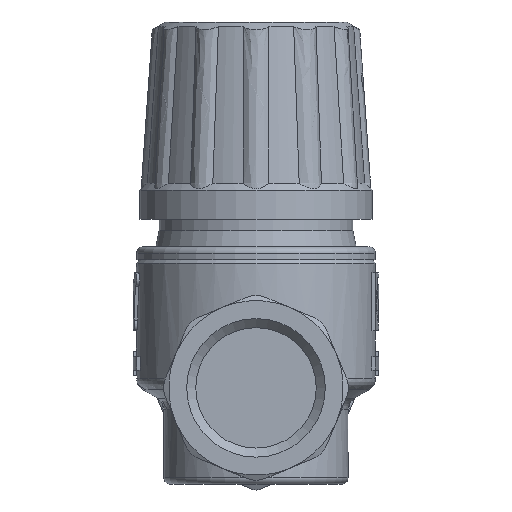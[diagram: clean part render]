
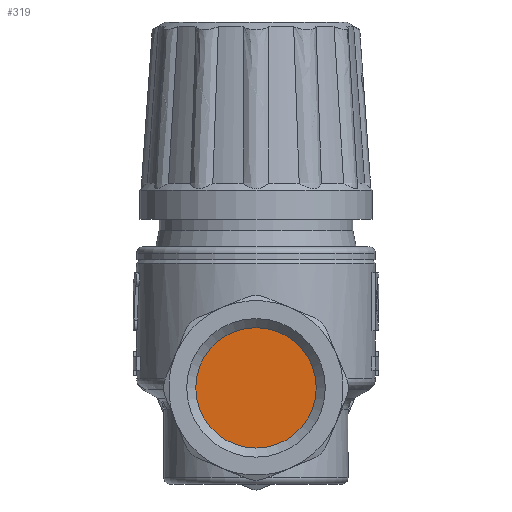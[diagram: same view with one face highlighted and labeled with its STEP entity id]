
A CAD part, front view. The second image highlights one B-rep face of the part: STEP entity #319.
In plain terms, the highlighted planar face has unit normal (0, -1, 0).
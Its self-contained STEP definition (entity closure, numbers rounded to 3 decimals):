
#319=ADVANCED_FACE('',(#2291),#2293,.T.);
#2291=FACE_BOUND('',#2292,.T.);
#2292=EDGE_LOOP('',(#4599));
#2293=PLANE('',#2294);
#2294=AXIS2_PLACEMENT_3D('',#2295,#2296,#2297);
#2295=CARTESIAN_POINT('',(0.,-17.5,0.));
#2296=DIRECTION('',(0.,-1.,0.));
#2297=DIRECTION('',(1.,0.,0.));
#4599=ORIENTED_EDGE('',*,*,#5861,.T.);
#5861=EDGE_CURVE('',#7243,#7243,#7244,.T.);
#7243=VERTEX_POINT('',#14069);
#7244=CIRCLE('',#14070,9.316);
#14069=CARTESIAN_POINT('',(9.316,-17.5,0.));
#14070=AXIS2_PLACEMENT_3D('',#14071,#14072,#14073);
#14071=CARTESIAN_POINT('',(0.,-17.5,0.));
#14072=DIRECTION('',(0.,-1.,0.));
#14073=DIRECTION('',(1.,0.,0.));
